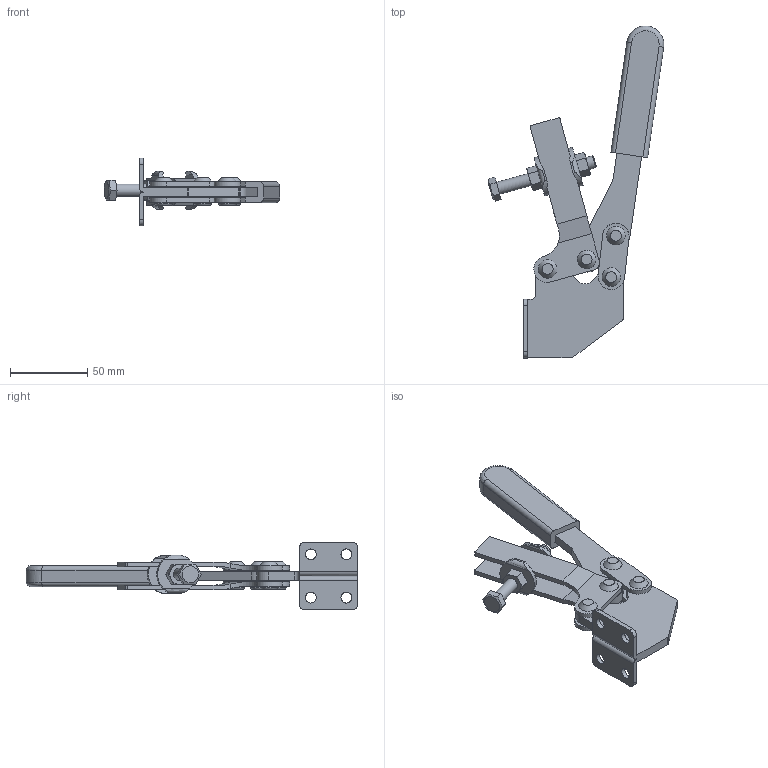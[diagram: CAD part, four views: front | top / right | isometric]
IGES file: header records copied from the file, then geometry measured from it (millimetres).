
Global section: file name: No.38CL(38CL-2S)(ul); native system: Autodesk Inventor 2020; preprocessor: unknown; author: y-takahashi; date: 20211201.101124; units: millimetre
Bounding box: 113.72 x 214.88 x 44 mm (x, y, z)
Volume: 83847.1 mm3; surface area: 50250.6 mm2
Topology: 16 solids, 16 shells, 241 faces, 596 edges, 401 vertices
Faces by surface type: bspline 241
